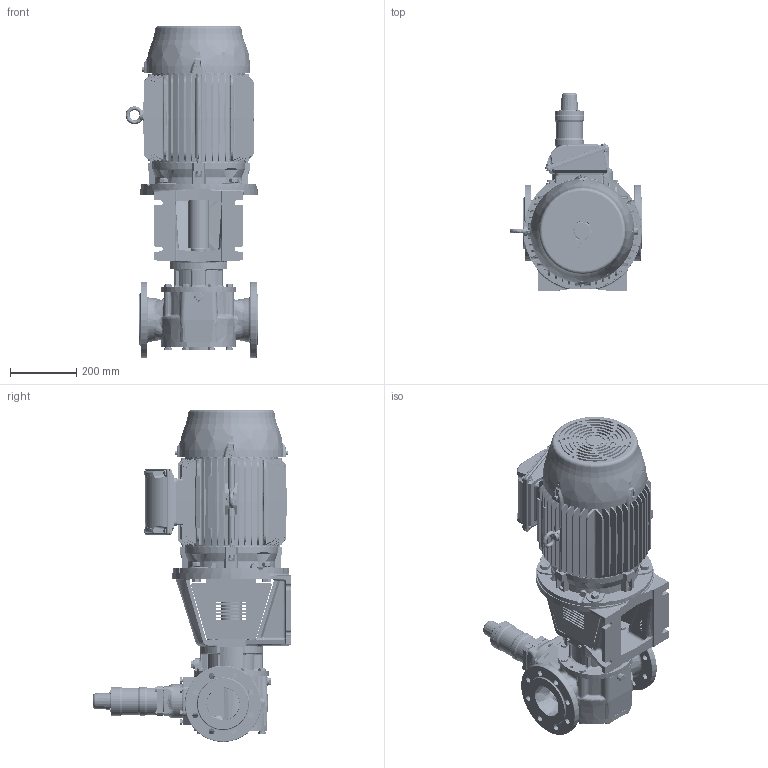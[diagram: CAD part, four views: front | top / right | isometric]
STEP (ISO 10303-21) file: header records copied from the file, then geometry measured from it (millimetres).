
FILE_DESCRIPTION(/* description */ (''),/* implementation_level */ '2;1');
FILE_NAME(/* name */ 'C:\V\JPP\Designs\GEAR PUMPS\PRODUCT ENGINEERING\EUROPE\TG BLOC\TG BLOC_86-100_G2_O_RV1-_160M-STEP.stp',/* time_stamp */ '2021-03-19T14:13:07+01:00',/* author */ ('A77THR'),/* organization */ (''),/* preprocessor_version */ 'ST-DEVELOPER v18.1',/* originating_system */ 'Autodesk Inventor 2020',/* authorisation */ '');
FILE_SCHEMA (('AUTOMOTIVE_DESIGN { 1 0 10303 214 3 1 1 }'));
Length unit declared in the file: millimetre
Products named in the file (1): TG BLOC_86-100_G2_O_RV1-_160M
Bounding box: 399.99 x 597 x 1000 mm (x, y, z)
Volume: 52928831 mm3; surface area: 2656938.3 mm2
Topology: 1 solids, 1 shells, 4951 faces, 12950 edges, 8180 vertices
Faces by surface type: plane 1985, cylinder 1067, bspline 1060, cone 640, torus 149, sphere 50
Full cylindrical faces by diameter (mm): 4 x1, 4.5 x8, 4.917 x8, 5 x4, 5.459 x4, 6 x4, 6.3 x1, 6.647 x1, 7 x8, 7.323 x4, 7.5 x3, 8 x17, 8.7 x4, 9 x6, 9.188 x8, 9.4 x1, 10 x16, 10.106 x7, 10.2 x2, 11 x8, 11.053 x4, 11.4 x4, 11.445 x2, 11.6 x7, 12 x4, 12.5 x3, 13 x5, 13.157 x2, 13.2 x2, 14 x8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
Entity records: 207087 total; most frequent: CARTESIAN_POINT 88742, ORIENTED_EDGE 25676, DIRECTION 21497, EDGE_CURVE 12838, AXIS2_PLACEMENT_3D 8318, VERTEX_POINT 8180, EDGE_LOOP 5404, FACE_OUTER_BOUND 4951
